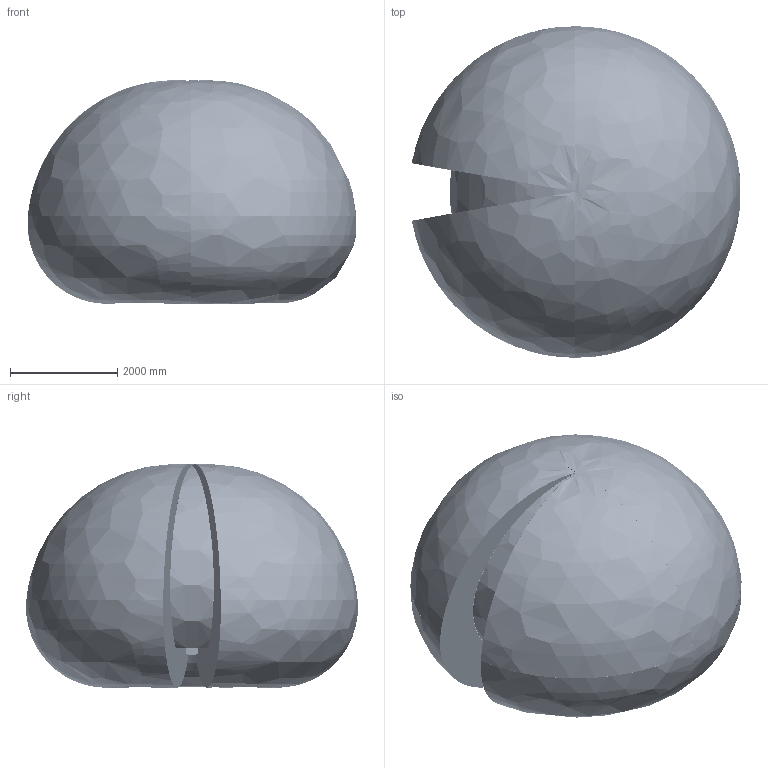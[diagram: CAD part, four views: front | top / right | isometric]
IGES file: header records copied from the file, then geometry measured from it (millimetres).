
Start section: SolidWorks IGES file using analytic representation for surfaces
Global section: file name: C:\DATA\SAP_DOC\LW\IRB 6720\IRB6720-LID-SW_150kg-310_OC_01_SW_J\export\IRB6720-LID-SW_150kg-310_OC_01_IGES_J\IRB6720-LID-SW_150kg-310_OC_01_ASM_CAD.igs; native system: SolidWorks 2024; preprocessor: SolidWorks 2024; author: SEJOVAS3; date: 260526.095401; units: millimetre
Bounding box: 6143.71 x 6199.84 x 4171.65 mm (x, y, z)
Surface area: 141193203.7 mm2 (no closed solid volume)
Topology: 0 solids, 0 shells, 9891 faces, 155571 edges, 155394 vertices
Faces by surface type: bspline 5864, revolution 4027
